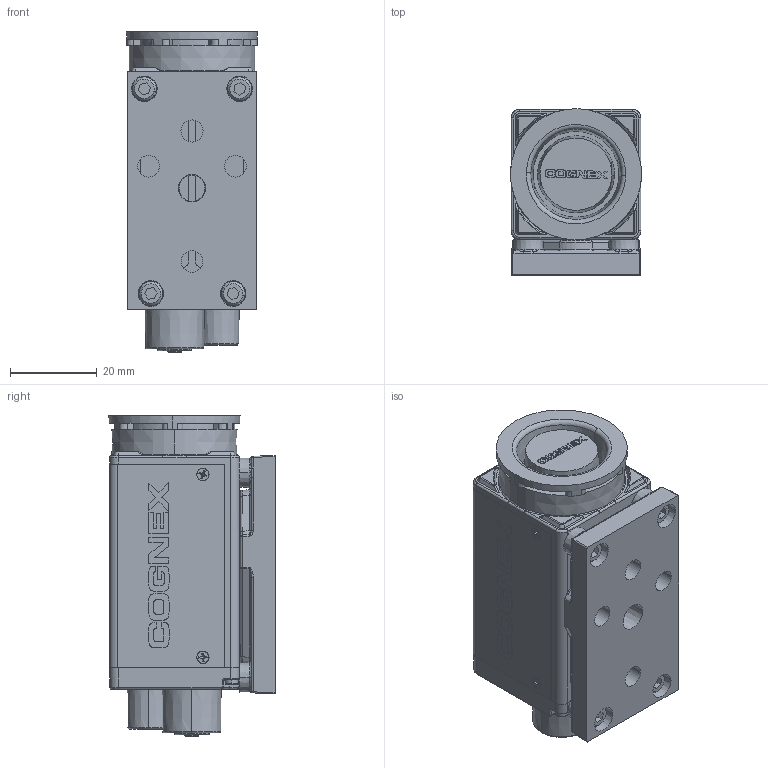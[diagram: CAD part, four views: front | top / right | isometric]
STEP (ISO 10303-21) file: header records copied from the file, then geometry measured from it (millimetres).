
FILE_DESCRIPTION (( 'STEP AP214' ), '1' );
FILE_NAME ('IS010-02_12-26-07.STEP', '2007-12-26T19:32:40', ( ' ' ), ( ' ' ), 'SwSTEP 2.0', 'SolidWorks 2007', '' );
FILE_SCHEMA (( 'AUTOMOTIVE_DESIGN' ));
Length unit declared in the file: millimetre
Products named in the file (1): IS010-02_12-26-07
Bounding box: 30.26 x 38.35 x 74 mm (x, y, z)
Volume: 56093.1 mm3; surface area: 34636.1 mm2
Topology: 8 solids, 19 shells, 3761 faces, 9916 edges, 6275 vertices
Faces by surface type: plane 1725, cylinder 776, cone 661, bspline 422, torus 109, sphere 68
Entity records: 152764 total; most frequent: CARTESIAN_POINT 41204, ORIENTED_EDGE 19726, DIRECTION 16959, EDGE_CURVE 9863, VERTEX_POINT 6275, VECTOR 5831, LINE 5831, AXIS2_PLACEMENT_3D 5564
